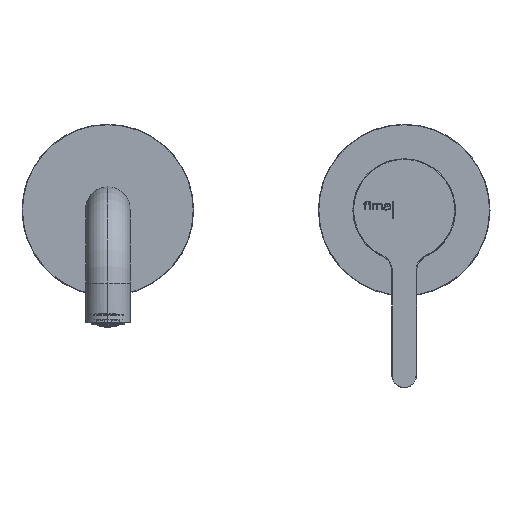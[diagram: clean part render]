
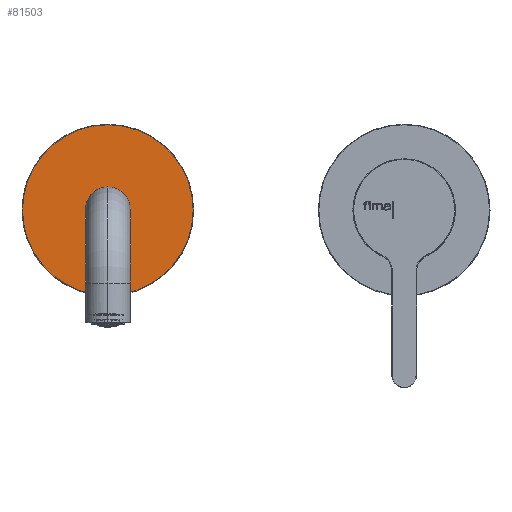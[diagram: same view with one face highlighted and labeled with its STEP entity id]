
A CAD part, top view. The second image highlights one B-rep face of the part: STEP entity #81503.
In plain terms, the highlighted planar face has unit normal (0, 0, 1).
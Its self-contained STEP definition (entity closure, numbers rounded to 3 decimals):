
#17667=CARTESIAN_POINT('',(-65.5,34.5,87.05));
#17668=DIRECTION('',(0.,0.,1.));
#17669=DIRECTION('',(1.,0.,0.));
#17670=AXIS2_PLACEMENT_3D('',#17667,#17668,#17669);
#17672=CARTESIAN_POINT('',(-65.5,34.5,87.05));
#17673=DIRECTION('',(0.,0.,1.));
#17674=DIRECTION('',(-1.,0.,0.));
#17675=AXIS2_PLACEMENT_3D('',#17672,#17673,#17674);
#17677=CARTESIAN_POINT('',(-65.5,34.5,87.05));
#17678=DIRECTION('',(0.,0.,1.));
#17679=DIRECTION('',(0.,1.,0.));
#17680=AXIS2_PLACEMENT_3D('',#17677,#17678,#17679);
#17682=CARTESIAN_POINT('',(-65.5,34.5,87.05));
#17683=DIRECTION('',(0.,0.,1.));
#17684=DIRECTION('',(0.,-1.,0.));
#17685=AXIS2_PLACEMENT_3D('',#17682,#17683,#17684);
#70532=CARTESIAN_POINT('',(-30.95,34.5,87.05));
#70533=CARTESIAN_POINT('',(-100.05,34.5,87.05));
#70534=VERTEX_POINT('',#70532);
#70535=VERTEX_POINT('',#70533);
#71434=CARTESIAN_POINT('',(-65.5,43.3,87.05));
#71435=CARTESIAN_POINT('',(-65.5,25.7,87.05));
#71436=VERTEX_POINT('',#71434);
#71437=VERTEX_POINT('',#71435);
#81487=CARTESIAN_POINT('',(-65.5,34.5,87.05));
#81488=DIRECTION('',(0.,0.,-1.));
#81489=DIRECTION('',(-1.,0.,0.));
#81490=AXIS2_PLACEMENT_3D('',#81487,#81488,#81489);
#81491=PLANE('',#81490);
#81493=ORIENTED_EDGE('',*,*,#81492,.F.);
#81495=ORIENTED_EDGE('',*,*,#81494,.F.);
#81496=EDGE_LOOP('',(#81493,#81495));
#81497=FACE_OUTER_BOUND('',#81496,.F.);
#81499=ORIENTED_EDGE('',*,*,#81498,.T.);
#81500=ORIENTED_EDGE('',*,*,#81477,.T.);
#81501=EDGE_LOOP('',(#81499,#81500));
#81502=FACE_BOUND('',#81501,.F.);
#81503=ADVANCED_FACE('',(#81497,#81502),#81491,.F.);
#17671=CIRCLE('',#17670,34.55);
#17676=CIRCLE('',#17675,34.55);
#17681=CIRCLE('',#17680,8.8);
#17686=CIRCLE('',#17685,8.8);
#81477=EDGE_CURVE('',#71437,#71436,#17686,.T.);
#81492=EDGE_CURVE('',#70534,#70535,#17671,.T.);
#81494=EDGE_CURVE('',#70535,#70534,#17676,.T.);
#81498=EDGE_CURVE('',#71436,#71437,#17681,.T.);
